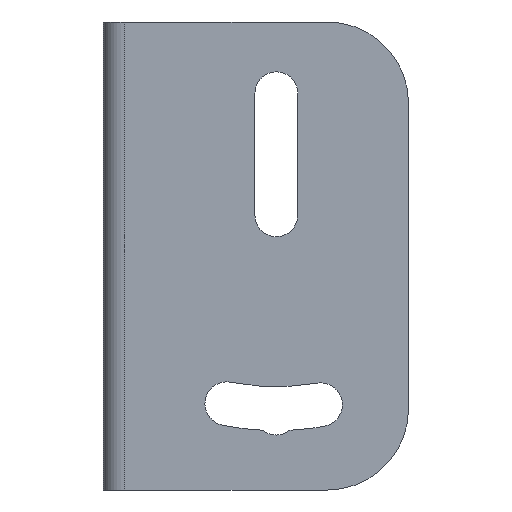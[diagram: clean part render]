
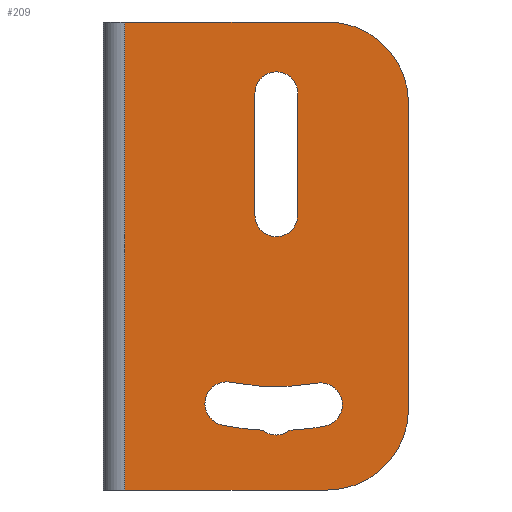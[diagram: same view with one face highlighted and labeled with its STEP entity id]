
A CAD part, front view. The second image highlights one B-rep face of the part: STEP entity #209.
In plain terms, the highlighted planar face has unit normal (0, -1, 0).
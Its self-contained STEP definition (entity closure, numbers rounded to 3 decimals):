
#209=ADVANCED_FACE('',(#394,#395,#396),#256,.F.);
#256=PLANE('',#1105);
#272=LINE('',#1583,#325);
#273=LINE('',#1588,#326);
#274=LINE('',#1592,#327);
#275=LINE('',#1594,#328);
#276=LINE('',#1607,#329);
#277=LINE('',#1612,#330);
#325=VECTOR('',#1279,1.);
#326=VECTOR('',#1282,1.);
#327=VECTOR('',#1285,1.);
#328=VECTOR('',#1286,1.);
#329=VECTOR('',#1299,1.);
#330=VECTOR('',#1302,1.);
#394=FACE_BOUND('',#438,.T.);
#395=FACE_BOUND('',#439,.T.);
#396=FACE_BOUND('',#440,.T.);
#438=EDGE_LOOP('',(#552,#553,#554,#555,#556,#557));
#439=EDGE_LOOP('',(#558,#559,#560,#561,#562,#563));
#440=EDGE_LOOP('',(#564,#565,#566,#567));
#552=ORIENTED_EDGE('',*,*,#898,.T.);
#553=ORIENTED_EDGE('',*,*,#899,.T.);
#554=ORIENTED_EDGE('',*,*,#900,.F.);
#555=ORIENTED_EDGE('',*,*,#901,.T.);
#556=ORIENTED_EDGE('',*,*,#902,.F.);
#557=ORIENTED_EDGE('',*,*,#903,.T.);
#558=ORIENTED_EDGE('',*,*,#904,.T.);
#559=ORIENTED_EDGE('',*,*,#905,.T.);
#560=ORIENTED_EDGE('',*,*,#906,.T.);
#561=ORIENTED_EDGE('',*,*,#907,.T.);
#562=ORIENTED_EDGE('',*,*,#908,.T.);
#563=ORIENTED_EDGE('',*,*,#909,.T.);
#564=ORIENTED_EDGE('',*,*,#910,.F.);
#565=ORIENTED_EDGE('',*,*,#911,.F.);
#566=ORIENTED_EDGE('',*,*,#912,.F.);
#567=ORIENTED_EDGE('',*,*,#913,.F.);
#808=VERTEX_POINT('',#1584);
#809=VERTEX_POINT('',#1585);
#810=VERTEX_POINT('',#1587);
#811=VERTEX_POINT('',#1589);
#812=VERTEX_POINT('',#1591);
#813=VERTEX_POINT('',#1593);
#814=VERTEX_POINT('',#1596);
#815=VERTEX_POINT('',#1597);
#816=VERTEX_POINT('',#1599);
#817=VERTEX_POINT('',#1601);
#818=VERTEX_POINT('',#1603);
#819=VERTEX_POINT('',#1605);
#820=VERTEX_POINT('',#1608);
#821=VERTEX_POINT('',#1609);
#822=VERTEX_POINT('',#1611);
#823=VERTEX_POINT('',#1613);
#898=EDGE_CURVE('',#808,#809,#272,.T.);
#899=EDGE_CURVE('',#809,#810,#1018,.T.);
#900=EDGE_CURVE('',#811,#810,#273,.T.);
#901=EDGE_CURVE('',#811,#812,#1019,.T.);
#902=EDGE_CURVE('',#813,#812,#274,.T.);
#903=EDGE_CURVE('',#813,#808,#275,.T.);
#904=EDGE_CURVE('',#814,#815,#1020,.T.);
#905=EDGE_CURVE('',#815,#816,#1021,.T.);
#906=EDGE_CURVE('',#816,#817,#1022,.T.);
#907=EDGE_CURVE('',#817,#818,#1023,.T.);
#908=EDGE_CURVE('',#818,#819,#1024,.T.);
#909=EDGE_CURVE('',#819,#814,#1025,.T.);
#910=EDGE_CURVE('',#820,#821,#276,.T.);
#911=EDGE_CURVE('',#822,#820,#1026,.T.);
#912=EDGE_CURVE('',#823,#822,#277,.T.);
#913=EDGE_CURVE('',#821,#823,#1027,.T.);
#1018=CIRCLE('',#1095,8.);
#1019=CIRCLE('',#1096,8.);
#1020=CIRCLE('',#1097,27.1);
#1021=CIRCLE('',#1098,2.1);
#1022=CIRCLE('',#1099,27.1);
#1023=CIRCLE('',#1100,2.15);
#1024=CIRCLE('',#1101,22.85);
#1025=CIRCLE('',#1102,2.15);
#1026=CIRCLE('',#1103,2.1);
#1027=CIRCLE('',#1104,2.1);
#1095=AXIS2_PLACEMENT_3D('',#1586,#1280,#1281);
#1096=AXIS2_PLACEMENT_3D('',#1590,#1283,#1284);
#1097=AXIS2_PLACEMENT_3D('',#1595,#1287,#1288);
#1098=AXIS2_PLACEMENT_3D('',#1598,#1289,#1290);
#1099=AXIS2_PLACEMENT_3D('',#1600,#1291,#1292);
#1100=AXIS2_PLACEMENT_3D('',#1602,#1293,#1294);
#1101=AXIS2_PLACEMENT_3D('',#1604,#1295,#1296);
#1102=AXIS2_PLACEMENT_3D('',#1606,#1297,#1298);
#1103=AXIS2_PLACEMENT_3D('',#1610,#1300,#1301);
#1104=AXIS2_PLACEMENT_3D('',#1614,#1303,#1304);
#1105=AXIS2_PLACEMENT_3D('',#1615,#1305,#1306);
#1279=DIRECTION('',(1.,0.,0.));
#1280=DIRECTION('',(0.,-1.,0.));
#1281=DIRECTION('',(-1.,0.,0.));
#1282=DIRECTION('',(0.,0.,-1.));
#1283=DIRECTION('',(0.,-1.,0.));
#1284=DIRECTION('',(-1.,0.,0.));
#1285=DIRECTION('',(1.,0.,0.));
#1286=DIRECTION('',(0.,0.,-1.));
#1287=DIRECTION('',(0.,1.,0.));
#1288=DIRECTION('',(-1.,0.,0.));
#1289=DIRECTION('',(0.,1.,0.));
#1290=DIRECTION('',(-1.,0.,0.));
#1291=DIRECTION('',(0.,1.,0.));
#1292=DIRECTION('',(-1.,0.,0.));
#1293=DIRECTION('',(0.,1.,0.));
#1294=DIRECTION('',(-1.,0.,0.));
#1295=DIRECTION('',(0.,-1.,0.));
#1296=DIRECTION('',(-1.,0.,0.));
#1297=DIRECTION('',(0.,1.,0.));
#1298=DIRECTION('',(-1.,0.,0.));
#1299=DIRECTION('',(0.,0.,-1.));
#1300=DIRECTION('',(0.,-1.,0.));
#1301=DIRECTION('',(-1.,0.,0.));
#1302=DIRECTION('',(0.,0.,1.));
#1303=DIRECTION('',(0.,-1.,0.));
#1304=DIRECTION('',(-1.,0.,0.));
#1305=DIRECTION('',(0.,1.,0.));
#1306=DIRECTION('',(-1.,0.,0.));
#1583=CARTESIAN_POINT('',(-32.593,-40.736,0.));
#1584=CARTESIAN_POINT('',(-30.493,-40.736,0.));
#1585=CARTESIAN_POINT('',(-10.593,-40.736,0.));
#1586=CARTESIAN_POINT('',(-10.593,-40.736,8.));
#1587=CARTESIAN_POINT('',(-2.593,-40.736,8.));
#1588=CARTESIAN_POINT('',(-2.593,-40.736,46.));
#1589=CARTESIAN_POINT('',(-2.593,-40.736,38.));
#1590=CARTESIAN_POINT('',(-10.593,-40.736,38.));
#1591=CARTESIAN_POINT('',(-10.593,-40.736,46.));
#1592=CARTESIAN_POINT('',(-32.593,-40.736,46.));
#1593=CARTESIAN_POINT('',(-30.493,-40.736,46.));
#1594=CARTESIAN_POINT('',(-30.493,-40.736,46.));
#1595=CARTESIAN_POINT('',(-15.594,-40.736,32.949));
#1596=CARTESIAN_POINT('',(-10.878,-40.736,6.263));
#1597=CARTESIAN_POINT('',(-14.254,-40.736,5.882));
#1598=CARTESIAN_POINT('',(-15.593,-40.736,7.5));
#1599=CARTESIAN_POINT('',(-16.932,-40.736,5.882));
#1600=CARTESIAN_POINT('',(-15.594,-40.736,32.949));
#1601=CARTESIAN_POINT('',(-20.887,-40.736,6.371));
#1602=CARTESIAN_POINT('',(-20.467,-40.736,8.48));
#1603=CARTESIAN_POINT('',(-20.094,-40.736,10.597));
#1604=CARTESIAN_POINT('',(-15.593,-40.736,33.));
#1605=CARTESIAN_POINT('',(-11.625,-40.736,10.497));
#1606=CARTESIAN_POINT('',(-11.252,-40.736,8.38));
#1607=CARTESIAN_POINT('',(-17.693,-40.736,46.));
#1608=CARTESIAN_POINT('',(-17.693,-40.736,39.));
#1609=CARTESIAN_POINT('',(-17.693,-40.736,27.));
#1610=CARTESIAN_POINT('',(-15.593,-40.736,39.));
#1611=CARTESIAN_POINT('',(-13.493,-40.736,39.));
#1612=CARTESIAN_POINT('',(-13.493,-40.736,46.));
#1613=CARTESIAN_POINT('',(-13.493,-40.736,27.));
#1614=CARTESIAN_POINT('',(-15.593,-40.736,27.));
#1615=CARTESIAN_POINT('',(-32.593,-40.736,46.));
